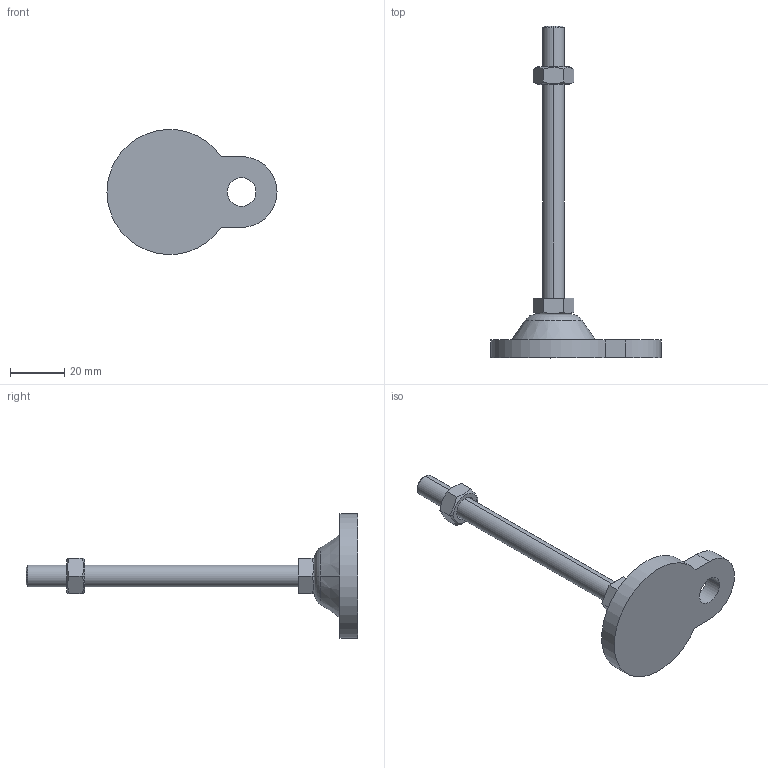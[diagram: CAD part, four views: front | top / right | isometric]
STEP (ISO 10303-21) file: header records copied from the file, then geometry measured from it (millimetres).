
FILE_DESCRIPTION (( 'STEP AP214' ), '1' );
FILE_NAME ('ARB46-M8-100.step', '2021-01-07T07:16:00', ( '' ), ( '' ), 'SwSTEP 2.0', 'SolidWorks 2019', '' );
FILE_SCHEMA (( 'AUTOMOTIVE_DESIGN' ));
Length unit declared in the file: millimetre
Products named in the file (1): ARB46-M8-100
Bounding box: 62.5 x 122 x 45.95 mm (x, y, z)
Volume: 23878.6 mm3; surface area: 9293.2 mm2
Topology: 3 solids, 3 shells, 46 faces, 100 edges, 62 vertices
Faces by surface type: plane 22, cone 14, cylinder 8, torus 2
Entity records: 1458 total; most frequent: CARTESIAN_POINT 395, DIRECTION 212, ORIENTED_EDGE 200, EDGE_CURVE 100, AXIS2_PLACEMENT_3D 83, VERTEX_POINT 62, EDGE_LOOP 52, ADVANCED_FACE 46
